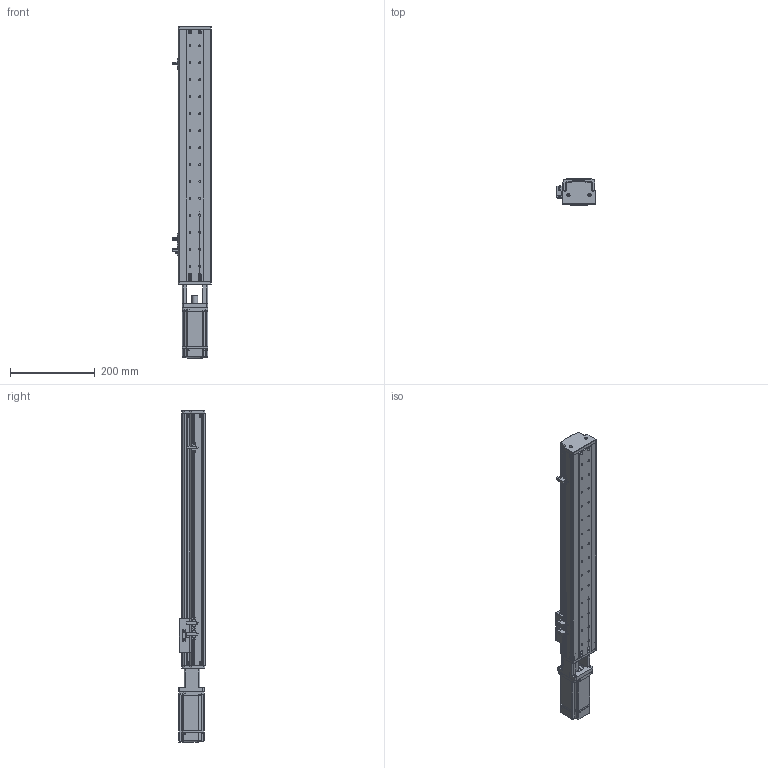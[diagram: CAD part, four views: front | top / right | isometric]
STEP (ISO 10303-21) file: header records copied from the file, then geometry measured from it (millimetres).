
FILE_DESCRIPTION (( 'STEP AP214' ), '1' );
FILE_NAME ('KSD75S-S440-MT-CM.STEP', '2019-10-18T07:32:08', ( '微软用户' ), ( '微软中国' ), 'SwSTEP 2.0', 'SolidWorks 2014', '' );
FILE_SCHEMA (( 'AUTOMOTIVE_DESIGN' ));
Length unit declared in the file: millimetre
Products named in the file (12): 覜茼え100遵圉猾敕; U倰嫖萇EEㄜSX672; 綴傷啣 ; 100遵鎮湛假蚾啣1 ; ヶ傷啣; 75裔啣-440俴最; 75遵耀郪耜啣-440俴最; 75遵賑雄釱; MGW15H賑寢440俴最 ; 440俴最; KSD75S-S440-MT-CM; MHMD042G1CA_2_03
Assembly tree (14 placements, depth 3):
  KSD75S-S440-MT-CM
    MGW15H賑寢440俴最 
      440俴最
    75遵賑雄釱
    75遵耀郪耜啣-440俴最  x2
    75裔啣-440俴最
    ヶ傷啣
    100遵鎮湛假蚾啣1 
    綴傷啣 
    U倰嫖萇EEㄜSX672  x3
    覜茼え100遵圉猾敕
    MHMD042G1CA_2_03
Bounding box: 91.7 x 63 x 783.5 mm (x, y, z)
Volume: 804335.6 mm3; surface area: 503300.8 mm2
Topology: 12 solids, 13 shells, 1416 faces, 4005 edges, 2611 vertices
Faces by surface type: cylinder 668, plane 601, cone 129, bspline 18
Entity records: 45512 total; most frequent: CARTESIAN_POINT 8647, DIRECTION 6733, ORIENTED_EDGE 6290, EDGE_CURVE 3216, AXIS2_PLACEMENT_3D 2476, VERTEX_POINT 2129, LINE 1781, VECTOR 1781
